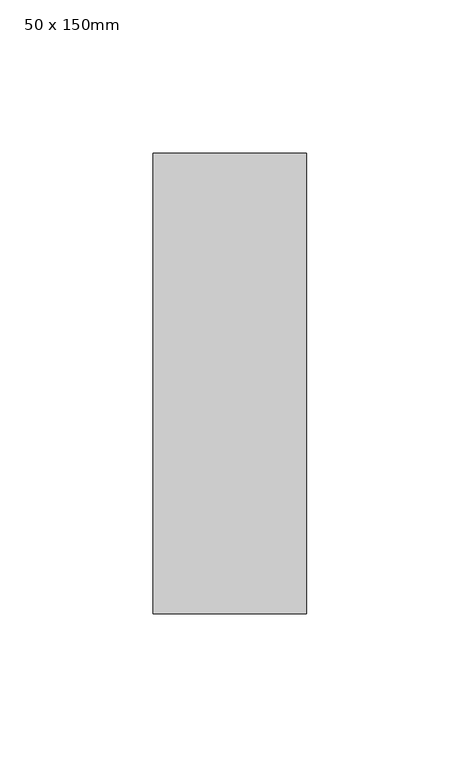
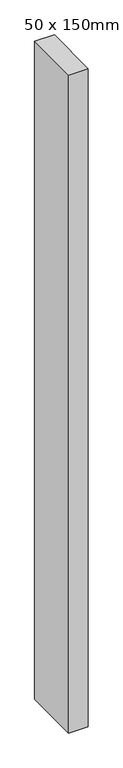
"""IFC4 building model written with IfcOpenShell, lengths in millimetres: member geometry, 矩形竖梃 : 50 x 150mm."""

from ifc_helpers import new_model, si_unit, frame, origin, place, context, project, spatial, polyline, outline, extrude, source, transform, mapped, element, save


def member_50_x_150mm_d1afb885(model_context):
    return source(origin(), model_context, "Body", "SweptSolid", [
        extrude(outline(polyline([(0.0, 75.0), (0.0, -75.0), (-50.0, -75.0), (-50.0, 75.0), (0.0, 75.0)])), frame((0.0, 0.0, -1775.0), z_axis=(0.0, 0.0, 1.0), x_axis=(1.0, 0.0, 0.0)), (0.0, 0.0, 1.0), 1775.0),
    ])


if __name__ == "__main__":
    model = new_model("IFC4")
    model_context = context("Model", 3, world=origin())
    ifc_project = project(units=[si_unit("LENGTHUNIT", "METRE", prefix="MILLI")], contexts=[model_context])
    site = spatial("IfcSite", under=ifc_project)
    building = spatial("IfcBuilding", under=site)
    placement = place(None, origin())
    member_50_x_150mm_shape = member_50_x_150mm_d1afb885(model_context)
    element("IfcMember", 1, ObjectType="矩形竖梃 : 50 x 150mm", at=placement, inside=building, context=model_context, shape_type="MappedRepresentation", body=[
        mapped(member_50_x_150mm_shape, transform((0.0, 0.0, 0.0), x_axis=(1.0, 0.0, 0.0), y_axis=(0.0, 1.0, 0.0), z_axis=(0.0, 0.0, 1.0))),
    ])
    save(model, "model.ifc")
